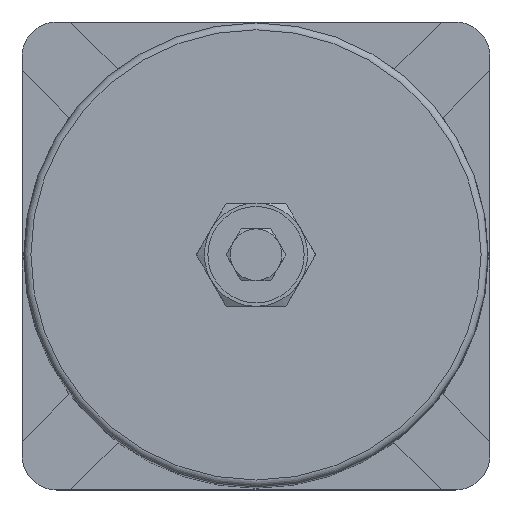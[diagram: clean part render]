
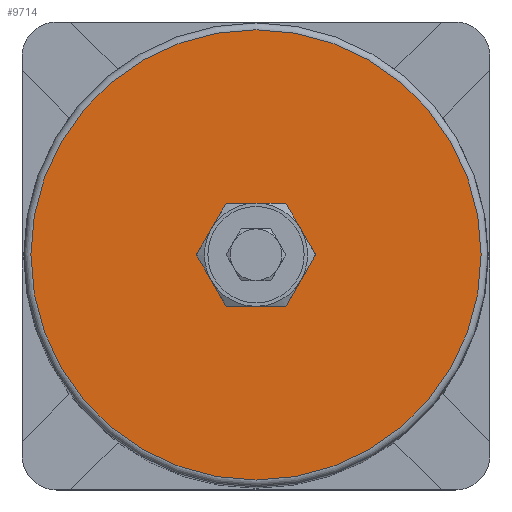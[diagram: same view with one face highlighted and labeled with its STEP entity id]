
A CAD part, top view. The second image highlights one B-rep face of the part: STEP entity #9714.
In plain terms, the highlighted planar face has unit normal (0, 0, 1).
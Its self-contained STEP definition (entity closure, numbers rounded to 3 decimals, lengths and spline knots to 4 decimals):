
#2148=FACE_BOUND('',#2957,.T.);
#2261=FACE_OUTER_BOUND('',#2956,.T.);
#2956=EDGE_LOOP('',(#6291));
#2957=EDGE_LOOP('',(#6292));
#3604=CIRCLE('',#10335,0.6606);
#3633=CIRCLE('',#10439,4.0892);
#3715=VERTEX_POINT('',#11501);
#3829=VERTEX_POINT('',#11971);
#4505=EDGE_CURVE('',#3715,#3715,#3604,.T.);
#4690=EDGE_CURVE('',#3829,#3829,#3633,.T.);
#6291=ORIENTED_EDGE('',*,*,#4690,.F.);
#6292=ORIENTED_EDGE('',*,*,#4505,.T.);
#8867=PLANE('',#10442);
#9714=ADVANCED_FACE('',(#2261,#2148),#8867,.T.);
#10335=AXIS2_PLACEMENT_3D('',#11502,#10643,#10644);
#10439=AXIS2_PLACEMENT_3D('',#11972,#10959,#10960);
#10442=AXIS2_PLACEMENT_3D('',#11976,#10965,#10966);
#10643=DIRECTION('center_axis',(0.,0.,
-1.));
#10644=DIRECTION('ref_axis',(0.,1.,0.));
#10959=DIRECTION('center_axis',(0.,0.,
-1.));
#10960=DIRECTION('ref_axis',(-1.,0.,0.));
#10965=DIRECTION('center_axis',(0.,0.,
1.));
#10966=DIRECTION('ref_axis',(1.,0.,0.));
#11501=CARTESIAN_POINT('',(0.,0.6606,11.8125));
#11502=CARTESIAN_POINT('Origin',(0.,0.,
11.8125));
#11971=CARTESIAN_POINT('',(4.0892,0.,11.8125));
#11972=CARTESIAN_POINT('Origin',(0.,0.,
11.8125));
#11976=CARTESIAN_POINT('Origin',(2.3867,0.,11.8125));
